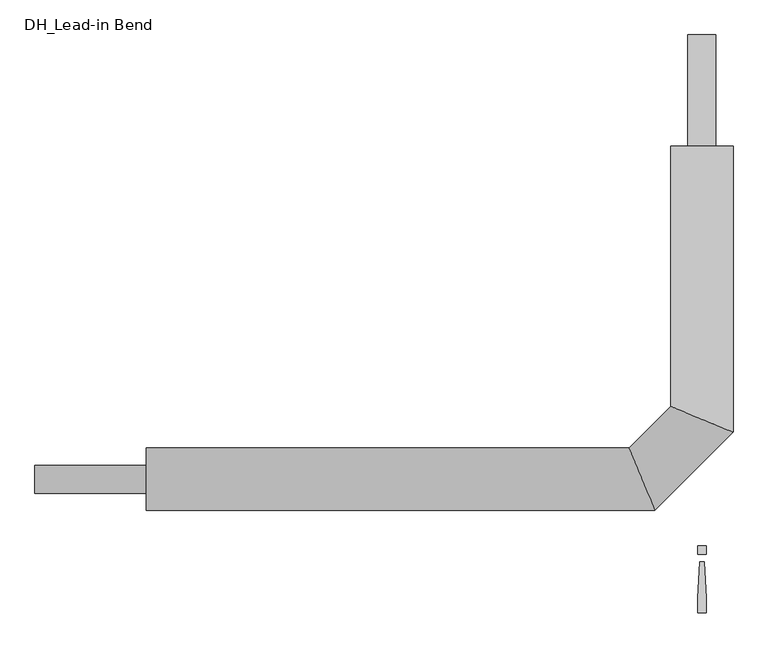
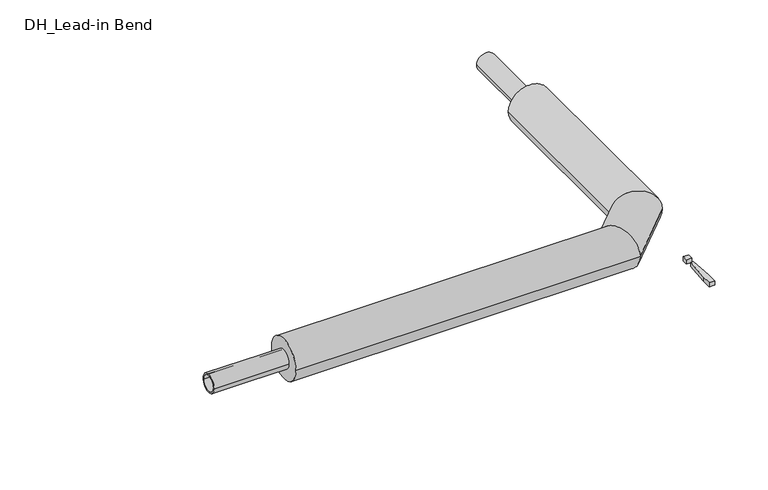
"""IFC4 building model written with IfcOpenShell, lengths in millimetres: pipe fitting geometry, DH_Lead-in Bend : INSULPEX UNO + 11 Heating."""

from ifc_helpers import new_model, si_unit, point, frame, origin, origin_with_axes, origin_2d, place, context, project, spatial, polyline, circle_curve, ellipse_curve, trimmed, segment, composite_curve, outline, extrude, source, transform, mapped, element, save
from ifc_brep_helpers import plane_surface, cylinder_surface, advanced_brep


def dh_lead_in_bend_e1f75ada(model_context):
    return source(origin(), model_context, "Body", "SolidModel", [
        advanced_brep(
        [(-1250.0, -70.0, 0.0), (-1250.0, 70.0, 0.0), (-106.0050506, -70.0, 0.0), (-163.9949494, 70.0, 0.0), (70.0, 750.0, 0.0), (-70.0, 750.0, 0.0), (-70.0, 163.9949494, 0.0), (70.0, 106.0050506, 0.0)],
        [
            (0, 1, circle_curve(frame((-1250.0, 0.0, 0.0), z_axis=(-1.0, 0.0, 0.0), x_axis=(0.0, 1.0, 0.0)), 70.0)),
            (1, 0, circle_curve(frame((-1250.0, 0.0, 0.0), z_axis=(-1.0, 0.0, 0.0), x_axis=(0.0, 1.0, 0.0)), 70.0)),
            (0, 2),
            (2, 3, ellipse_curve(frame((-135.0, 0.0, 0.0), z_axis=(-0.9238795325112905, -0.3826834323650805, 0.0), x_axis=(-0.38268343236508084, 0.9238795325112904, 0.0)), 75.767454, 70.0)),
            (3, 1),
            (3, 2, ellipse_curve(frame((-135.0, 0.0, 0.0), z_axis=(-0.9238795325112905, -0.3826834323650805, 0.0), x_axis=(-0.38268343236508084, 0.9238795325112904, 0.0)), 75.767454, 70.0)),
            (4, 5, circle_curve(frame((0.0, 750.0, 0.0), z_axis=(0.0, 1.0, 0.0), x_axis=(-1.0, 0.0, 0.0)), 70.0)),
            (5, 4, circle_curve(frame((0.0, 750.0, 0.0), z_axis=(0.0, 1.0, 0.0), x_axis=(-1.0, 0.0, 0.0)), 70.0)),
            (6, 7, ellipse_curve(frame((0.0, 135.0, 0.0), z_axis=(0.382683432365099, 0.923879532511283, 0.0), x_axis=(0.923879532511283, -0.3826834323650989, 0.0)), 75.767454, 70.0)),
            (7, 4),
            (5, 6),
            (7, 6, ellipse_curve(frame((0.0, 135.0, 0.0), z_axis=(0.382683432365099, 0.923879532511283, 0.0), x_axis=(0.923879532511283, -0.3826834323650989, 0.0)), 75.767454, 70.0)),
            (2, 7),
            (6, 3),
        ],
        [
            plane_surface(frame((-1250.0, 0.0, 0.0), z_axis=(-1.0, 0.0, 0.0), x_axis=(0.0, 0.0, 1.0))),
            cylinder_surface(frame((-1250.0, 0.0, 0.0), z_axis=(-1.0, 0.0, 0.0), x_axis=(0.0, 1.0, 0.0)), 70.0),
            plane_surface(frame((0.0, 750.0, 0.0), z_axis=(0.0, 1.0, 0.0), x_axis=(0.0, 0.0, 1.0))),
            cylinder_surface(frame((0.0, 135.0, 0.0), z_axis=(0.0, -1.0, 0.0), x_axis=(-1.0, 0.0, 0.0)), 70.0),
            cylinder_surface(frame((-135.0, 0.0, 0.0), z_axis=(-0.7071067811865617, -0.7071067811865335, 0.0), x_axis=(-0.7071067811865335, 0.7071067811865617, 0.0)), 70.0),
        ],
        [
            (0, [[1, 2]]),
            (1, [[-1, 3, 4, 5]]),
            (1, [[-2, -5, 6, -3]]),
            (2, [[7, 8]]),
            (3, [[9, 10, -8, 11]]),
            (3, [[12, -11, -7, -10]]),
            (4, [[-4, 13, -9, 14]]),
            (4, [[-6, -14, -12, -13]]),
        ],
    ),
        extrude(outline(polyline([(4.7088895, -185.3166715), (9.4177791, -266.6553807), (9.4177791, -300.6844652), (-9.4177791, -300.6844652), (-9.4177791, -266.6553807), (-4.7088895, -185.3166715), (4.7088895, -185.3166715)])), origin_with_axes(), (0.0, 0.0, 1.0), 15.0),
        extrude(outline(polyline([(9.4177791, -150.0), (9.4177791, -168.8355582), (-9.4177791, -168.8355582), (-9.4177791, -150.0), (9.4177791, -150.0)])), origin_with_axes(), (0.0, 0.0, 1.0), 15.0),
        extrude(outline(composite_curve([segment(trimmed(circle_curve(origin_2d(), 31.5), [point((-31.5, 0.0))], [point((31.5, 0.0))], False, "CARTESIAN"), True, "CONTINUOUS"), segment(trimmed(circle_curve(origin_2d(), 31.5), [point((31.5, 0.0))], [point((-31.5, 0.0))], False, "CARTESIAN"), True, "CONTINUOUS")], self_intersect=False), holes=[composite_curve([segment(trimmed(circle_curve(origin_2d(), 25.7), [point((-25.7, 0.0))], [point((25.7, 0.0))], True, "CARTESIAN"), True, "CONTINUOUS"), segment(trimmed(circle_curve(origin_2d(), 25.7), [point((25.7, 0.0))], [point((-25.7, 0.0))], True, "CARTESIAN"), True, "CONTINUOUS")], self_intersect=False)]), frame((-1500.0, 0.0, 0.0), z_axis=(1.0, 0.0, 0.0), x_axis=(0.0, 1.0, 0.0)), (0.0, 0.0, 1.0), 250.0),
        extrude(outline(composite_curve([segment(trimmed(circle_curve(origin_2d(), 31.5), [point((0.0, 31.5))], [point((0.0, -31.5))], False, "CARTESIAN"), True, "CONTINUOUS"), segment(trimmed(circle_curve(origin_2d(), 31.5), [point((0.0, -31.5))], [point((0.0, 31.5))], False, "CARTESIAN"), True, "CONTINUOUS")], self_intersect=False), holes=[composite_curve([segment(trimmed(circle_curve(origin_2d(), 25.7), [point((0.0, 25.7))], [point((0.0, -25.7))], True, "CARTESIAN"), True, "CONTINUOUS"), segment(trimmed(circle_curve(origin_2d(), 25.7), [point((0.0, -25.7))], [point((0.0, 25.7))], True, "CARTESIAN"), True, "CONTINUOUS")], self_intersect=False)]), frame((0.0, 750.0, 0.0), z_axis=(0.0, 1.0, 0.0), x_axis=(0.0, 0.0, 1.0)), (0.0, 0.0, 1.0), 250.0),
    ])


if __name__ == "__main__":
    model = new_model("IFC4")
    model_context = context("Model", 3, world=origin())
    ifc_project = project(units=[si_unit("LENGTHUNIT", "METRE", prefix="MILLI")], contexts=[model_context])
    site = spatial("IfcSite", under=ifc_project)
    building = spatial("IfcBuilding", under=site)
    placement = place(None, origin())
    dh_lead_in_bend_shape = dh_lead_in_bend_e1f75ada(model_context)
    element("IfcPipeFitting", 1, ObjectType="DH_Lead-in Bend : INSULPEX UNO + 11 Heating", at=placement, inside=building, context=model_context, shape_type="MappedRepresentation", body=[
        mapped(dh_lead_in_bend_shape, transform((0.0, 0.0, 0.0), x_axis=(1.0, 0.0, 0.0), y_axis=(0.0, 1.0, 0.0), z_axis=(0.0, 0.0, 1.0))),
    ])
    save(model, "model.ifc")
